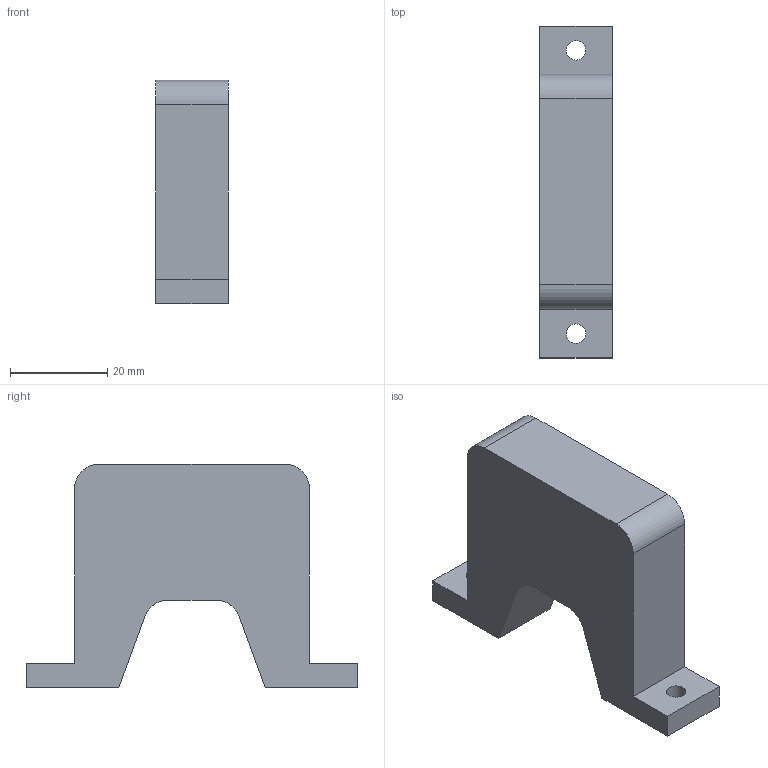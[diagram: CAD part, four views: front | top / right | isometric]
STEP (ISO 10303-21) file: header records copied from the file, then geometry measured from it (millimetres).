
FILE_DESCRIPTION(('CATIA V5 STEP Exchange'),'2;1');
FILE_NAME('C:\Users\user\Documents\Jakob\BAC - Arbeit 1\CAD Modell\CAD-Modell-Step files\rod mount\rod mount_2.stp','2018-12-13T14:08:45+00:00',('none'),('none'),'Version 5-6 Release 2012','CATIA V5 STEP AP203','none');
FILE_SCHEMA(('CONFIG_CONTROL_DESIGN'));
Length unit declared in the file: millimetre
Products named in the file (1): rod mount 2
Bounding box: 15 x 68.3 x 46 mm (x, y, z)
Volume: 27243.2 mm3; surface area: 8077.2 mm2
Topology: 1 solids, 1 shells, 28 faces, 76 edges, 52 vertices
Faces by surface type: plane 16, cylinder 12
Entity records: 887 total; most frequent: ORIENTED_EDGE 152, CARTESIAN_POINT 150, DIRECTION 118, EDGE_CURVE 76, VECTOR 52, LINE 52, VERTEX_POINT 52, AXIS2_PLACEMENT_3D 46
